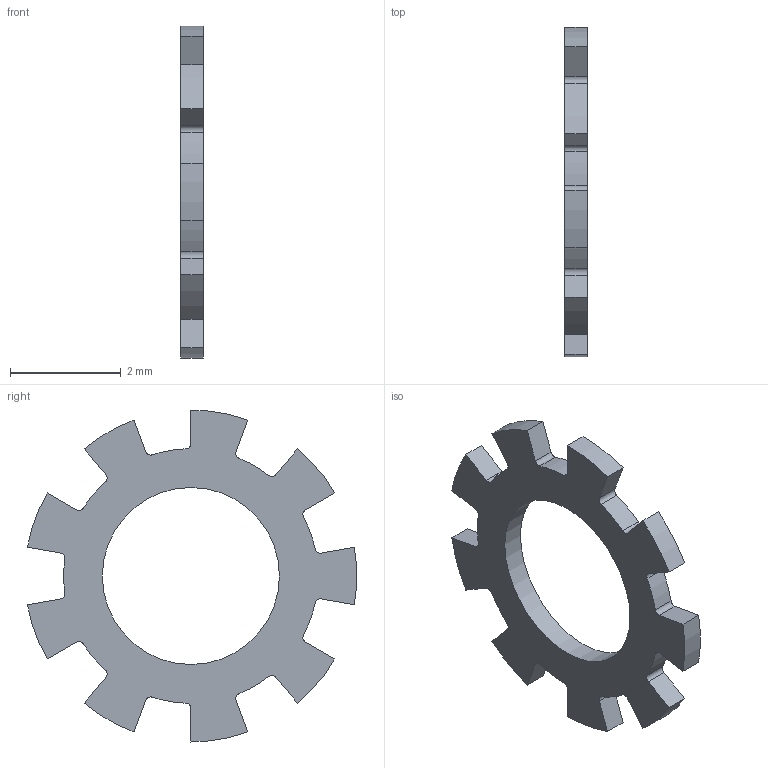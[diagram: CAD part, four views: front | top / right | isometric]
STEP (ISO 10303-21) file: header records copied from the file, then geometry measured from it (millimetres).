
FILE_DESCRIPTION(/* description */ ('Fächerscheibe DIN 6798 - A 3,2 Edelstahl A4','CAx-IF Rec.Pracs.---Representation and Presentation of Product Manufacturing Information (PMI)---4.0---2014-10-13'),/* implementation_level */ '2;1');
FILE_NAME(/* name */ 'G:\Alle CAD Daten\CAMTEC_2020_Pack and Go\PSU CPS-i3000 - CPS-i2000\2530290.stp',/* time_stamp */ '2020-09-20T19:40:21+02:00',/* author */ ('rryba'),/* organization */ (''),/* preprocessor_version */ 'ST-DEVELOPER v18.1',/* originating_system */ 'Autodesk Inventor 2021',/* authorisation */ '');
FILE_SCHEMA (('AP242_MANAGED_MODEL_BASED_3D_ENGINEERING_MIM_LF { 1 0 10303 442 1 1 4 }'));
Length unit declared in the file: millimetre
Products named in the file (1): 2530290
Bounding box: 0.4 x 5.95 x 6 mm (x, y, z)
Volume: 5.8 mm3; surface area: 44.3 mm2
Topology: 1 solids, 1 shells, 57 faces, 171 edges, 119 vertices
Faces by surface type: cylinder 37, plane 20
Full cylindrical faces by diameter (mm): 3.2 x1
Entity records: 2016 total; most frequent: DIRECTION 363, CARTESIAN_POINT 343, ORIENTED_EDGE 330, EDGE_CURVE 165, AXIS2_PLACEMENT_3D 136, VERTEX_POINT 110, LINE 91, VECTOR 91
